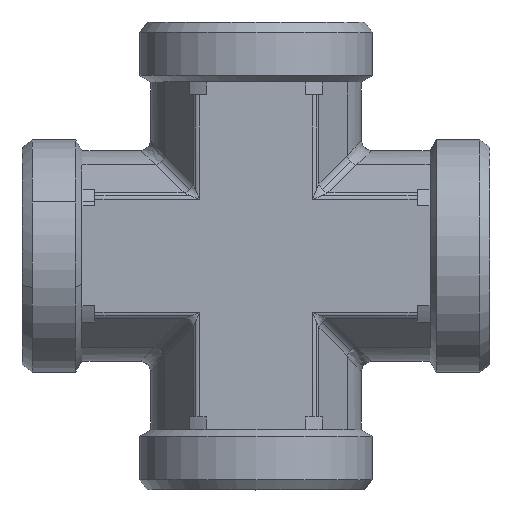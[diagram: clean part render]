
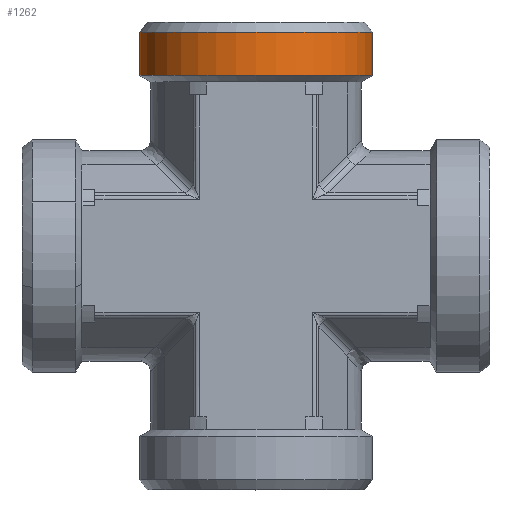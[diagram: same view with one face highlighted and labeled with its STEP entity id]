
A CAD part, top view. The second image highlights one B-rep face of the part: STEP entity #1262.
In plain terms, the highlighted cylindrical face has radius 22.41 mm (diameter 44.82 mm), a partial arc.
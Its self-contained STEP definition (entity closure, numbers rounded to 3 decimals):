
#1059=CARTESIAN_POINT('',(-47.563,0.,-22.41));
#1060=VERTEX_POINT('',#1059);
#1076=CARTESIAN_POINT('',(-47.563,0.,22.41));
#1077=VERTEX_POINT('',#1076);
#1099=CARTESIAN_POINT('',(-39.247,0.,-22.41));
#1100=VERTEX_POINT('',#1099);
#1133=CARTESIAN_POINT('',(-39.247,0.,22.41));
#1134=VERTEX_POINT('',#1133);
#1141=CARTESIAN_POINT('',(-39.247,0.,0.));
#1142=DIRECTION('',(1.0,0.0,0.0));
#1143=DIRECTION('',(0.0,0.0,-1.0));
#1144=AXIS2_PLACEMENT_3D('',#1141,#1142,#1143);
#1145=CIRCLE('',#1144,22.41);
#1146=EDGE_CURVE('',#1134,#1100,#1145,.T.);
#1235=CARTESIAN_POINT('',(-51.5,0.,0.));
#1236=DIRECTION('',(1.0,0.,0.));
#1237=DIRECTION('',(0.0,0.0,-1.0));
#1238=AXIS2_PLACEMENT_3D('',#1235,#1236,#1237);
#1239=CYLINDRICAL_SURFACE('',#1238,22.41);
#1240=CARTESIAN_POINT('',(-39.247,0.,-22.41));
#1241=DIRECTION('',(-1.0,0.0,0.0));
#1242=VECTOR('',#1241,8.315);
#1243=LINE('',#1240,#1242);
#1244=EDGE_CURVE('',#1100,#1060,#1243,.T.);
#1245=ORIENTED_EDGE('',*,*,#1244,.F.);
#1246=ORIENTED_EDGE('',*,*,#1146,.F.);
#1247=CARTESIAN_POINT('',(-47.563,0.,22.41));
#1248=DIRECTION('',(1.0,0.0,0.0));
#1249=VECTOR('',#1248,8.315);
#1250=LINE('',#1247,#1249);
#1251=EDGE_CURVE('',#1077,#1134,#1250,.T.);
#1252=ORIENTED_EDGE('',*,*,#1251,.F.);
#1253=CARTESIAN_POINT('',(-47.563,0.,0.));
#1254=DIRECTION('',(-1.0,0.0,0.0));
#1255=DIRECTION('',(0.0,0.0,-1.0));
#1256=AXIS2_PLACEMENT_3D('',#1253,#1254,#1255);
#1257=CIRCLE('',#1256,22.41);
#1258=EDGE_CURVE('',#1060,#1077,#1257,.T.);
#1259=ORIENTED_EDGE('',*,*,#1258,.F.);
#1260=EDGE_LOOP('',(#1245,#1246,#1252,#1259));
#1261=FACE_OUTER_BOUND('',#1260,.T.);
#1262=ADVANCED_FACE('',(#1261),#1239,.T.);
